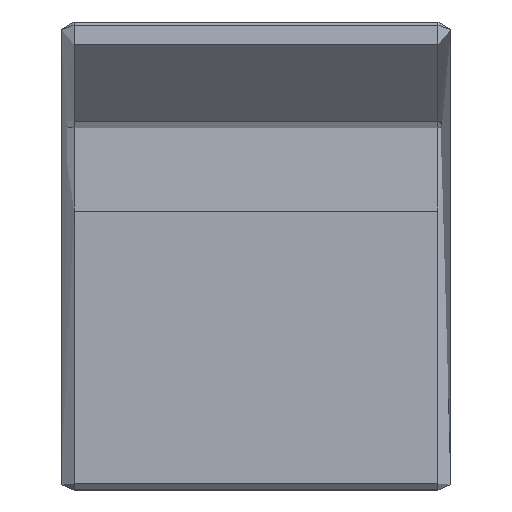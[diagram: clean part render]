
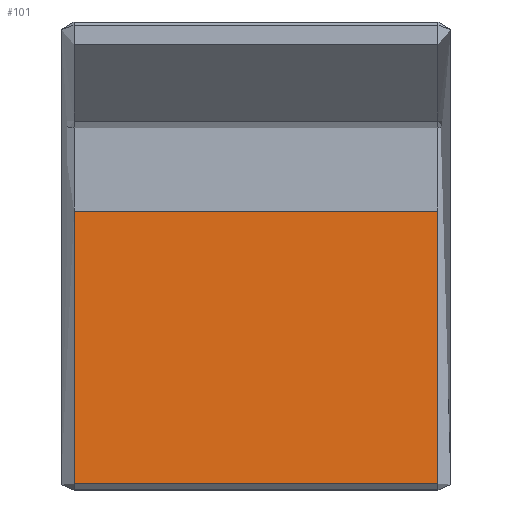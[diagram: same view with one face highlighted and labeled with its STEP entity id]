
A CAD part, top view. The second image highlights one B-rep face of the part: STEP entity #101.
In plain terms, the highlighted free-form (B-spline) face has degree [1, 3] with [2, 14] control points.
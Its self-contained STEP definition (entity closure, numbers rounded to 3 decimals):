
#101=ADVANCED_FACE('',(#141),#610,.T.);
#141=FACE_OUTER_BOUND('',#181,.T.);
#181=EDGE_LOOP('',(#247,#248,#249,#250));
#247=ORIENTED_EDGE('',*,*,#385,.F.);
#248=ORIENTED_EDGE('',*,*,#402,.T.);
#249=ORIENTED_EDGE('',*,*,#400,.F.);
#250=ORIENTED_EDGE('',*,*,#401,.F.);
#385=EDGE_CURVE('',#542,#543,#483,.T.);
#400=EDGE_CURVE('',#554,#555,#498,.T.);
#401=EDGE_CURVE('',#543,#554,#499,.T.);
#402=EDGE_CURVE('',#542,#555,#500,.T.);
#483=B_SPLINE_CURVE_WITH_KNOTS('',1,(#1977,#1978),.UNSPECIFIED.,.F.,.F.,
(2,2),(-1.,0.),.UNSPECIFIED.);
#498=B_SPLINE_CURVE_WITH_KNOTS('',1,(#2261,#2262),.UNSPECIFIED.,.F.,.F.,
(2,2),(0.,560.),.UNSPECIFIED.);
#499=B_SPLINE_CURVE_WITH_KNOTS('',3,(#2263,#2264,#2265,#2266,#2267,#2268,
#2269,#2270,#2271,#2272,#2273,#2274,#2275,#2276),.UNSPECIFIED.,.F.,.F.,
(4,2,2,1,1,1,1,1,1,4),(286.233,286.295,286.358,
286.483,286.733,287.233,287.733,288.233,
288.733,289.233),.UNSPECIFIED.);
#500=B_SPLINE_CURVE_WITH_KNOTS('',3,(#2277,#2278,#2279,#2280,#2281,#2282,
#2283,#2284,#2285,#2286,#2287,#2288,#2289,#2290),.UNSPECIFIED.,.F.,.F.,
(4,2,2,1,1,1,1,1,1,4),(286.233,286.295,286.358,
286.483,286.733,287.233,287.733,288.233,
288.733,289.233),.UNSPECIFIED.);
#542=VERTEX_POINT('',#1947);
#543=VERTEX_POINT('',#1948);
#554=VERTEX_POINT('',#1959);
#555=VERTEX_POINT('',#1960);
#610=B_SPLINE_SURFACE_WITH_KNOTS('',1,3,((#1835,#1836,#1837,#1838,#1839,
#1840,#1841,#1842,#1843,#1844,#1845,#1846,#1847,#1848),(#1849,#1850,#1851,
#1852,#1853,#1854,#1855,#1856,#1857,#1858,#1859,#1860,#1861,#1862)),
 .UNSPECIFIED.,.F.,.F.,.F.,(2,2),(4,2,2,1,1,1,1,1,1,4),(0.,560.),(286.233,
286.295,286.358,286.483,286.733,287.233,
287.733,288.233,288.733,289.233),
 .UNSPECIFIED.);
#1835=CARTESIAN_POINT('',(280.,69.271,380.111));
#1836=CARTESIAN_POINT('',(280.,66.606,380.33));
#1837=CARTESIAN_POINT('',(280.,63.95,380.546));
#1838=CARTESIAN_POINT('',(280.,58.645,380.974));
#1839=CARTESIAN_POINT('',(280.,55.997,381.185));
#1840=CARTESIAN_POINT('',(280.,48.051,381.814));
#1841=CARTESIAN_POINT('',(280.,32.16,383.048));
#1842=CARTESIAN_POINT('',(280.,-5.614,385.807));
#1843=CARTESIAN_POINT('',(280.,-65.507,389.689));
#1844=CARTESIAN_POINT('',(280.,-159.501,395.15));
#1845=CARTESIAN_POINT('',(280.,-251.303,400.39));
#1846=CARTESIAN_POINT('',(280.,-316.603,404.385));
#1847=CARTESIAN_POINT('',(280.,-342.297,401.719));
#1848=CARTESIAN_POINT('',(280.,-350.641,397.929));
#1849=CARTESIAN_POINT('',(-280.,69.271,380.111));
#1850=CARTESIAN_POINT('',(-280.,66.606,380.33));
#1851=CARTESIAN_POINT('',(-280.,63.95,380.546));
#1852=CARTESIAN_POINT('',(-280.,58.645,380.974));
#1853=CARTESIAN_POINT('',(-280.,55.997,381.185));
#1854=CARTESIAN_POINT('',(-280.,48.051,381.814));
#1855=CARTESIAN_POINT('',(-280.,32.16,383.048));
#1856=CARTESIAN_POINT('',(-280.,-5.614,385.807));
#1857=CARTESIAN_POINT('',(-280.,-65.507,389.689));
#1858=CARTESIAN_POINT('',(-280.,-159.501,395.15));
#1859=CARTESIAN_POINT('',(-280.,-251.303,400.39));
#1860=CARTESIAN_POINT('',(-280.,-316.603,404.385));
#1861=CARTESIAN_POINT('',(-280.,-342.297,401.719));
#1862=CARTESIAN_POINT('',(-280.,-350.641,397.929));
#1947=CARTESIAN_POINT('',(-280.,69.271,380.111));
#1948=CARTESIAN_POINT('',(280.,69.271,380.111));
#1959=CARTESIAN_POINT('',(280.,-350.641,397.929));
#1960=CARTESIAN_POINT('',(-280.,-350.641,397.929));
#1977=CARTESIAN_POINT('',(-280.,69.271,380.111));
#1978=CARTESIAN_POINT('',(280.,69.271,380.111));
#2261=CARTESIAN_POINT('',(280.,-350.641,397.929));
#2262=CARTESIAN_POINT('',(-280.,-350.641,397.929));
#2263=CARTESIAN_POINT('',(280.,69.271,380.111));
#2264=CARTESIAN_POINT('',(280.,66.606,380.33));
#2265=CARTESIAN_POINT('',(280.,63.95,380.546));
#2266=CARTESIAN_POINT('',(280.,58.645,380.974));
#2267=CARTESIAN_POINT('',(280.,55.997,381.185));
#2268=CARTESIAN_POINT('',(280.,48.051,381.814));
#2269=CARTESIAN_POINT('',(280.,32.16,383.048));
#2270=CARTESIAN_POINT('',(280.,-5.614,385.807));
#2271=CARTESIAN_POINT('',(280.,-65.507,389.689));
#2272=CARTESIAN_POINT('',(280.,-159.501,395.15));
#2273=CARTESIAN_POINT('',(280.,-251.303,400.39));
#2274=CARTESIAN_POINT('',(280.,-316.603,404.385));
#2275=CARTESIAN_POINT('',(280.,-342.297,401.719));
#2276=CARTESIAN_POINT('',(280.,-350.641,397.929));
#2277=CARTESIAN_POINT('',(-280.,69.271,380.111));
#2278=CARTESIAN_POINT('',(-280.,66.606,380.33));
#2279=CARTESIAN_POINT('',(-280.,63.95,380.546));
#2280=CARTESIAN_POINT('',(-280.,58.645,380.974));
#2281=CARTESIAN_POINT('',(-280.,55.997,381.185));
#2282=CARTESIAN_POINT('',(-280.,48.051,381.814));
#2283=CARTESIAN_POINT('',(-280.,32.16,383.048));
#2284=CARTESIAN_POINT('',(-280.,-5.614,385.807));
#2285=CARTESIAN_POINT('',(-280.,-65.507,389.689));
#2286=CARTESIAN_POINT('',(-280.,-159.501,395.15));
#2287=CARTESIAN_POINT('',(-280.,-251.303,400.39));
#2288=CARTESIAN_POINT('',(-280.,-316.603,404.385));
#2289=CARTESIAN_POINT('',(-280.,-342.297,401.719));
#2290=CARTESIAN_POINT('',(-280.,-350.641,397.929));
